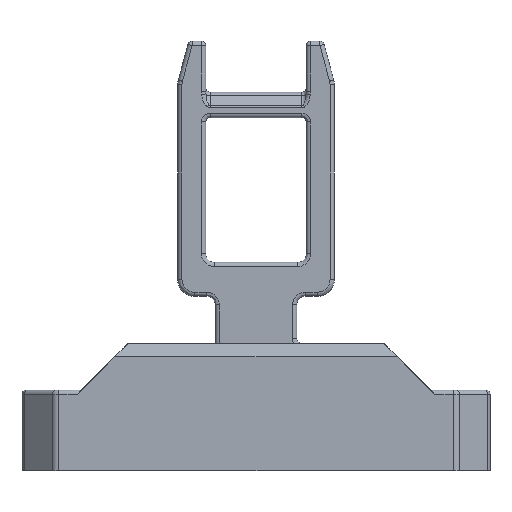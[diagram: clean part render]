
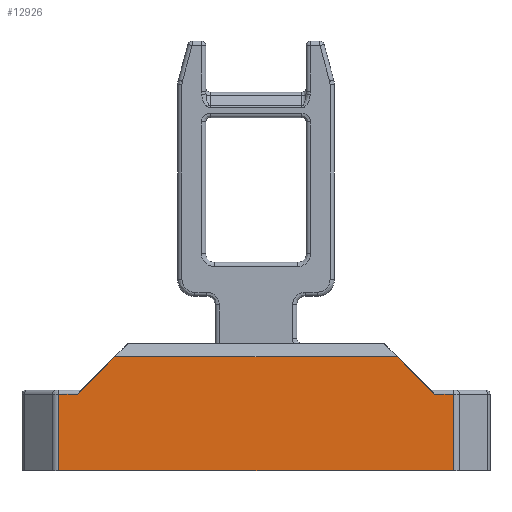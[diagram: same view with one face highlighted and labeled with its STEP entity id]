
A CAD part, front view. The second image highlights one B-rep face of the part: STEP entity #12926.
In plain terms, the highlighted planar face has unit normal (0, 1, 0).
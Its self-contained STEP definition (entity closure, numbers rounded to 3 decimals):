
#112 = ORIENTED_EDGE ( 'NONE', *, *, #9165, .T. ) ;
#326 = EDGE_CURVE ( 'NONE', #5379, #9513, #11216, .T. ) ;
#477 = DIRECTION ( 'NONE',  ( 0., 1., 0. ) ) ;
#1727 = VECTOR ( 'NONE', #12756, 1000. ) ;
#1837 = ORIENTED_EDGE ( 'NONE', *, *, #6219, .T. ) ;
#2092 = CARTESIAN_POINT ( 'NONE',  ( -27.5, -7., 9. ) ) ;
#2130 = VERTEX_POINT ( 'NONE', #4114 ) ;
#2429 = ORIENTED_EDGE ( 'NONE', *, *, #6007, .T. ) ;
#2454 = LINE ( 'NONE', #12390, #12835 ) ;
#2614 = ORIENTED_EDGE ( 'NONE', *, *, #11150, .T. ) ;
#2626 = VERTEX_POINT ( 'NONE', #3494 ) ;
#2669 = LINE ( 'NONE', #7727, #1727 ) ;
#2737 = VECTOR ( 'NONE', #4540, 1000. ) ;
#2922 = EDGE_CURVE ( 'NONE', #4672, #12212, #5185, .T. ) ;
#2934 = CARTESIAN_POINT ( 'NONE',  ( -23.186, -7., 0. ) ) ;
#3031 = ORIENTED_EDGE ( 'NONE', *, *, #326, .T. ) ;
#3365 = PLANE ( 'NONE',  #5260 ) ;
#3494 = CARTESIAN_POINT ( 'NONE',  ( 23.186, -7., 0. ) ) ;
#3528 = CARTESIAN_POINT ( 'NONE',  ( -23.186, -7., 9.5 ) ) ;
#3996 = VERTEX_POINT ( 'NONE', #2934 ) ;
#4114 = CARTESIAN_POINT ( 'NONE',  ( -16.6, -7., 13.4 ) ) ;
#4540 = DIRECTION ( 'NONE',  ( 0., 0., 1. ) ) ;
#4672 = VERTEX_POINT ( 'NONE', #7853 ) ;
#4762 = EDGE_LOOP ( 'NONE', ( #1837, #2614, #11861, #112, #2429, #10388, #3031, #7300 ) ) ;
#4998 = CARTESIAN_POINT ( 'NONE',  ( -27.5, -7., 0. ) ) ;
#5169 = CARTESIAN_POINT ( 'NONE',  ( -21., -7., 9. ) ) ;
#5185 = LINE ( 'NONE', #2092, #12957 ) ;
#5260 = AXIS2_PLACEMENT_3D ( 'NONE', #9451, #477, #7467 ) ;
#5359 = LINE ( 'NONE', #3528, #2737 ) ;
#5379 = VERTEX_POINT ( 'NONE', #10652 ) ;
#5493 = DIRECTION ( 'NONE',  ( 0., 0., -1. ) ) ;
#5502 = CARTESIAN_POINT ( 'NONE',  ( 16.6, -7., 13.4 ) ) ;
#6007 = EDGE_CURVE ( 'NONE', #2626, #3996, #8388, .T. ) ;
#6116 = CARTESIAN_POINT ( 'NONE',  ( 23.186, -7., 9. ) ) ;
#6219 = EDGE_CURVE ( 'NONE', #2130, #12990, #6464, .T. ) ;
#6464 = LINE ( 'NONE', #12630, #11525 ) ;
#6557 = DIRECTION ( 'NONE',  ( 1., 0., 0. ) ) ;
#6581 = DIRECTION ( 'NONE',  ( 1., 0., 0. ) ) ;
#7300 = ORIENTED_EDGE ( 'NONE', *, *, #8467, .T. ) ;
#7467 = DIRECTION ( 'NONE',  ( 0., 0., 1. ) ) ;
#7727 = CARTESIAN_POINT ( 'NONE',  ( -21., -7., 9. ) ) ;
#7853 = CARTESIAN_POINT ( 'NONE',  ( 21., -7., 9. ) ) ;
#8388 = LINE ( 'NONE', #4998, #10757 ) ;
#8467 = EDGE_CURVE ( 'NONE', #9513, #2130, #2669, .T. ) ;
#8546 = VECTOR ( 'NONE', #6557, 1000. ) ;
#9099 = VECTOR ( 'NONE', #5493, 1000. ) ;
#9165 = EDGE_CURVE ( 'NONE', #12212, #2626, #11774, .T. ) ;
#9398 = DIRECTION ( 'NONE',  ( 0.707, 0., -0.707 ) ) ;
#9451 = CARTESIAN_POINT ( 'NONE',  ( -27.5, -7., 9.5 ) ) ;
#9513 = VERTEX_POINT ( 'NONE', #5169 ) ;
#10388 = ORIENTED_EDGE ( 'NONE', *, *, #12339, .T. ) ;
#10652 = CARTESIAN_POINT ( 'NONE',  ( -23.186, -7., 9. ) ) ;
#10672 = CARTESIAN_POINT ( 'NONE',  ( -27.5, -7., 9. ) ) ;
#10757 = VECTOR ( 'NONE', #12072, 1000. ) ;
#11132 = DIRECTION ( 'NONE',  ( 1., 0., 0. ) ) ;
#11150 = EDGE_CURVE ( 'NONE', #12990, #4672, #2454, .T. ) ;
#11216 = LINE ( 'NONE', #10672, #8546 ) ;
#11525 = VECTOR ( 'NONE', #6581, 1000. ) ;
#11558 = CARTESIAN_POINT ( 'NONE',  ( 23.186, -7., 9.5 ) ) ;
#11774 = LINE ( 'NONE', #11558, #9099 ) ;
#11861 = ORIENTED_EDGE ( 'NONE', *, *, #2922, .T. ) ;
#11875 = FACE_OUTER_BOUND ( 'NONE', #4762, .T. ) ;
#12072 = DIRECTION ( 'NONE',  ( -1., 0., 0. ) ) ;
#12212 = VERTEX_POINT ( 'NONE', #6116 ) ;
#12339 = EDGE_CURVE ( 'NONE', #3996, #5379, #5359, .T. ) ;
#12390 = CARTESIAN_POINT ( 'NONE',  ( 16.6, -7., 13.4 ) ) ;
#12630 = CARTESIAN_POINT ( 'NONE',  ( -27.5, -7., 13.4 ) ) ;
#12756 = DIRECTION ( 'NONE',  ( 0.707, 0., 0.707 ) ) ;
#12835 = VECTOR ( 'NONE', #9398, 1000. ) ;
#12926 = ADVANCED_FACE ( 'NONE', ( #11875 ), #3365, .T. ) ;
#12957 = VECTOR ( 'NONE', #11132, 1000. ) ;
#12990 = VERTEX_POINT ( 'NONE', #5502 ) ;
